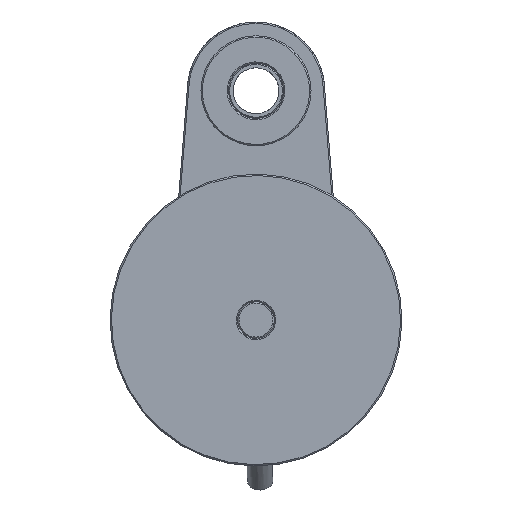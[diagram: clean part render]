
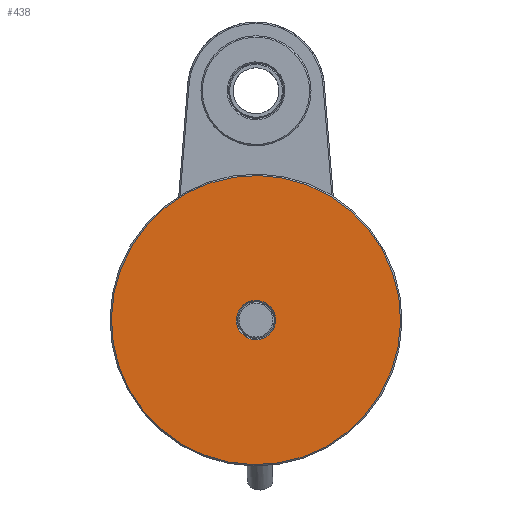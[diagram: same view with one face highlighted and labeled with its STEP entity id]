
A CAD part, left-side view. The second image highlights one B-rep face of the part: STEP entity #438.
In plain terms, the highlighted planar face has unit normal (-1, 0, 0).
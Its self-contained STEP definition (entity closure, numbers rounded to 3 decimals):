
#438 = ADVANCED_FACE( '', ( #1053, #1054 ), #1055, .T. );
#1053 = FACE_OUTER_BOUND( '', #1971, .T. );
#1054 = FACE_BOUND( '', #1972, .T. );
#1055 = PLANE( '', #1973 );
#1971 = EDGE_LOOP( '', ( #3217 ) );
#1972 = EDGE_LOOP( '', ( #3218 ) );
#1973 = AXIS2_PLACEMENT_3D( '', #3219, #3220, #3221 );
#3217 = ORIENTED_EDGE( '', *, *, #4604, .T. );
#3218 = ORIENTED_EDGE( '', *, *, #4555, .F. );
#3219 = CARTESIAN_POINT( '', ( -23.9, -20.686, -1.204 ) );
#3220 = DIRECTION( '', ( -1., 0., 0. ) );
#3221 = DIRECTION( '', ( 0., -0.656, 0.755 ) );
#4555 = EDGE_CURVE( '', #5293, #5293, #5294, .T. );
#4604 = EDGE_CURVE( '', #5372, #5372, #5373, .T. );
#5293 = VERTEX_POINT( '', #6405 );
#5294 = CIRCLE( '', #6406, 4.289 );
#5372 = VERTEX_POINT( '', #6516 );
#5373 = CIRCLE( '', #6517, 31.53 );
#6405 = CARTESIAN_POINT( '', ( -23.9, -2.814, -21.763 ) );
#6406 = AXIS2_PLACEMENT_3D( '', #7409, #7410, #7411 );
#6516 = CARTESIAN_POINT( '', ( -23.9, -20.686, -1.204 ) );
#6517 = AXIS2_PLACEMENT_3D( '', #7480, #7481, #7482 );
#7409 = CARTESIAN_POINT( '', ( -23.9, 0., -25. ) );
#7410 = DIRECTION( '', ( -1., 0., 0. ) );
#7411 = DIRECTION( '', ( 0., -0.656, 0.755 ) );
#7480 = CARTESIAN_POINT( '', ( -23.9, 0., -25. ) );
#7481 = DIRECTION( '', ( -1., 0., 0. ) );
#7482 = DIRECTION( '', ( 0., -0.656, 0.755 ) );
